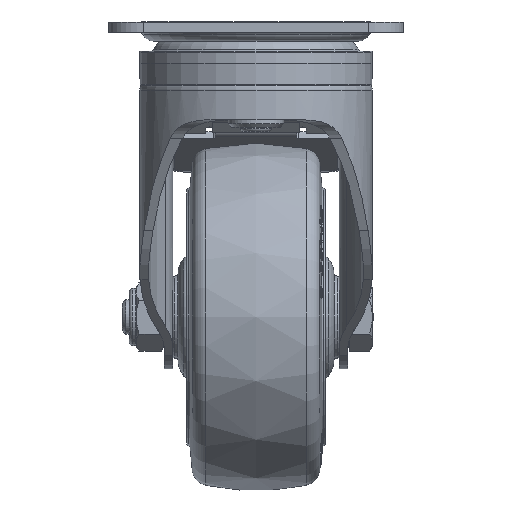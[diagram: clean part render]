
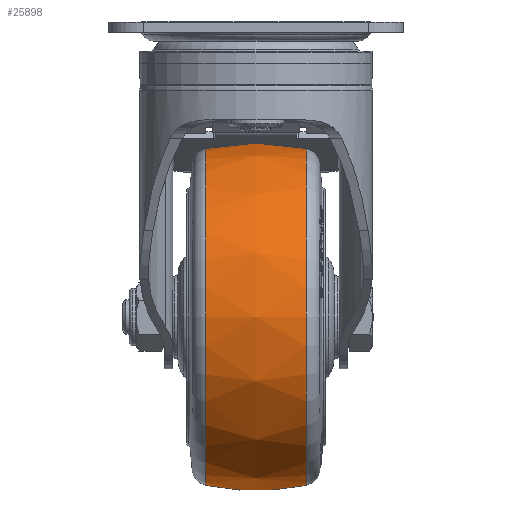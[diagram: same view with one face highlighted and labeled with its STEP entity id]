
A CAD part, left-side view. The second image highlights one B-rep face of the part: STEP entity #25898.
In plain terms, the highlighted free-form (B-spline) face has degree [2, 2] with [3, 9] control points.
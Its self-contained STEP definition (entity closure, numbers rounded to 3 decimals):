
#64=(
BOUNDED_SURFACE()
B_SPLINE_SURFACE(2,2,((#41400,#41401,#41402,#41403,#41404,#41405,#41406,
#41407,#41408),(#41409,#41410,#41411,#41412,#41413,#41414,#41415,#41416,
#41417),(#41418,#41419,#41420,#41421,#41422,#41423,#41424,#41425,#41426)),
 .UNSPECIFIED.,.F.,.T.,.F.)
B_SPLINE_SURFACE_WITH_KNOTS((3,3),(3,2,2,2,3),(-0.208,0.208),
(-3.142,-1.571,0.,1.571,3.142),
 .UNSPECIFIED.)
GEOMETRIC_REPRESENTATION_ITEM()
RATIONAL_B_SPLINE_SURFACE(((1.,0.707,1.,0.707,1.,
0.707,1.,0.707,1.),(0.978,0.692,
0.978,0.692,0.978,0.692,
0.978,0.692,0.978),(1.,0.707,
1.,0.707,1.,0.707,1.,0.707,1.)))
REPRESENTATION_ITEM('')
SURFACE()
);
#7413=FACE_OUTER_BOUND('',#8980,.T.);
#8980=EDGE_LOOP('',(#19717,#19718,#19719,#19720));
#10189=CIRCLE('',#27292,48.492);
#10208=CIRCLE('',#27320,48.492);
#10210=CIRCLE('',#27322,70.);
#11503=VERTEX_POINT('',#41350);
#11518=VERTEX_POINT('',#41397);
#14510=EDGE_CURVE('',#11503,#11503,#10189,.T.);
#14532=EDGE_CURVE('',#11518,#11518,#10208,.T.);
#14534=EDGE_CURVE('',#11503,#11518,#10210,.T.);
#19717=ORIENTED_EDGE('',*,*,#14510,.F.);
#19718=ORIENTED_EDGE('',*,*,#14534,.T.);
#19719=ORIENTED_EDGE('',*,*,#14532,.T.);
#19720=ORIENTED_EDGE('',*,*,#14534,.F.);
#25898=ADVANCED_FACE('',(#7413),#64,.F.);
#27292=AXIS2_PLACEMENT_3D('',#41352,#29601,#29602);
#27320=AXIS2_PLACEMENT_3D('',#41398,#29660,#29661);
#27322=AXIS2_PLACEMENT_3D('',#41427,#29664,#29665);
#29601=DIRECTION('center_axis',(0.,-1.,0.));
#29602=DIRECTION('ref_axis',(0.,0.,
1.));
#29660=DIRECTION('center_axis',(0.,-1.,0.));
#29661=DIRECTION('ref_axis',(0.,0.,
1.));
#29664=DIRECTION('center_axis',(1.,0.,0.));
#29665=DIRECTION('ref_axis',(0.,0.,
-1.));
#41350=CARTESIAN_POINT('',(36.,-14.451,-132.292));
#41352=CARTESIAN_POINT('Origin',(36.,-14.451,-83.8));
#41397=CARTESIAN_POINT('',(36.,14.451,-132.292));
#41398=CARTESIAN_POINT('Origin',(36.,14.451,-83.8));
#41400=CARTESIAN_POINT('Ctrl Pts',(36.,14.451,-132.292));
#41401=CARTESIAN_POINT('Ctrl Pts',(84.492,14.451,-132.292));
#41402=CARTESIAN_POINT('Ctrl Pts',(84.492,14.451,-83.8));
#41403=CARTESIAN_POINT('Ctrl Pts',(84.492,14.451,-35.308));
#41404=CARTESIAN_POINT('Ctrl Pts',(36.,14.451,-35.308));
#41405=CARTESIAN_POINT('Ctrl Pts',(-12.492,14.451,-35.308));
#41406=CARTESIAN_POINT('Ctrl Pts',(-12.492,14.451,-83.8));
#41407=CARTESIAN_POINT('Ctrl Pts',(-12.492,14.451,-132.292));
#41408=CARTESIAN_POINT('Ctrl Pts',(36.,14.451,-132.292));
#41409=CARTESIAN_POINT('Ctrl Pts',(36.,0.,
-135.341));
#41410=CARTESIAN_POINT('Ctrl Pts',(87.541,0.,
-135.341));
#41411=CARTESIAN_POINT('Ctrl Pts',(87.541,0.,
-83.8));
#41412=CARTESIAN_POINT('Ctrl Pts',(87.541,0.,
-32.259));
#41413=CARTESIAN_POINT('Ctrl Pts',(36.,0.,
-32.259));
#41414=CARTESIAN_POINT('Ctrl Pts',(-15.541,0.,
-32.259));
#41415=CARTESIAN_POINT('Ctrl Pts',(-15.541,0.,
-83.8));
#41416=CARTESIAN_POINT('Ctrl Pts',(-15.541,0.,
-135.341));
#41417=CARTESIAN_POINT('Ctrl Pts',(36.,0.,
-135.341));
#41418=CARTESIAN_POINT('Ctrl Pts',(36.,-14.451,-132.292));
#41419=CARTESIAN_POINT('Ctrl Pts',(84.492,-14.451,-132.292));
#41420=CARTESIAN_POINT('Ctrl Pts',(84.492,-14.451,-83.8));
#41421=CARTESIAN_POINT('Ctrl Pts',(84.492,-14.451,-35.308));
#41422=CARTESIAN_POINT('Ctrl Pts',(36.,-14.451,-35.308));
#41423=CARTESIAN_POINT('Ctrl Pts',(-12.492,-14.451,
-35.308));
#41424=CARTESIAN_POINT('Ctrl Pts',(-12.492,-14.451,
-83.8));
#41425=CARTESIAN_POINT('Ctrl Pts',(-12.492,-14.451,
-132.292));
#41426=CARTESIAN_POINT('Ctrl Pts',(36.,-14.451,-132.292));
#41427=CARTESIAN_POINT('Origin',(36.,0.,
-63.8));
